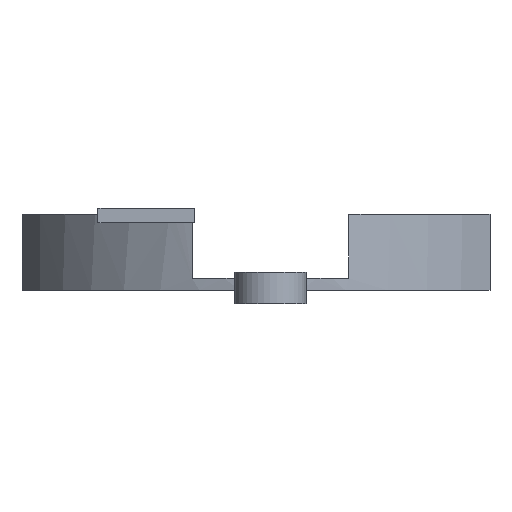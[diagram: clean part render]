
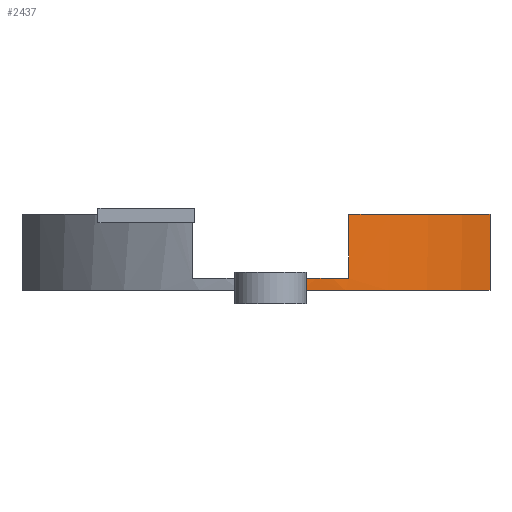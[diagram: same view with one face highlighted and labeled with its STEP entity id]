
A CAD part, left-side view. The second image highlights one B-rep face of the part: STEP entity #2437.
In plain terms, the highlighted cylindrical face has radius 22 mm (diameter 44 mm), a partial arc.
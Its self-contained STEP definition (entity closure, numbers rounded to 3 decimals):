
#131 = PLANE('',#132);
#132 = AXIS2_PLACEMENT_3D('',#133,#134,#135);
#133 = CARTESIAN_POINT('',(0.,43.5,3.9));
#134 = DIRECTION('',(0.,0.,1.));
#135 = DIRECTION('',(0.,1.,-0.));
#158 = CYLINDRICAL_SURFACE('',#159,3.);
#159 = AXIS2_PLACEMENT_3D('',#160,#161,#162);
#160 = CARTESIAN_POINT('',(-23.5,43.5,2.8));
#161 = DIRECTION('',(-0.,-0.,-1.));
#162 = DIRECTION('',(1.,0.,0.));
#185 = PLANE('',#186);
#186 = AXIS2_PLACEMENT_3D('',#187,#188,#189);
#187 = CARTESIAN_POINT('',(0.,43.5,4.9));
#188 = DIRECTION('',(0.,0.,1.));
#189 = DIRECTION('',(0.,1.,-0.));
#643 = VERTEX_POINT('',#644);
#644 = CARTESIAN_POINT('',(-21.856,40.99,4.9));
#670 = EDGE_CURVE('',#643,#671,#673,.T.);
#671 = VERTEX_POINT('',#672);
#672 = CARTESIAN_POINT('',(-21.018,37.,4.9));
#673 = SURFACE_CURVE('',#674,(#679,#686),.PCURVE_S1.);
#674 = CIRCLE('',#675,22.);
#675 = AXIS2_PLACEMENT_3D('',#676,#677,#678);
#676 = CARTESIAN_POINT('',(0.,43.5,4.9));
#677 = DIRECTION('',(0.,-0.,1.));
#678 = DIRECTION('',(0.,1.,0.));
#679 = PCURVE('',#185,#680);
#680 = DEFINITIONAL_REPRESENTATION('',(#681),#685);
#681 = CIRCLE('',#682,22.);
#682 = AXIS2_PLACEMENT_2D('',#683,#684);
#683 = CARTESIAN_POINT('',(0.,0.));
#684 = DIRECTION('',(1.,0.));
#685 = ( GEOMETRIC_REPRESENTATION_CONTEXT(2) 
PARAMETRIC_REPRESENTATION_CONTEXT() REPRESENTATION_CONTEXT('2D SPACE',''
  ) );
#686 = PCURVE('',#687,#692);
#687 = CYLINDRICAL_SURFACE('',#688,22.);
#688 = AXIS2_PLACEMENT_3D('',#689,#690,#691);
#689 = CARTESIAN_POINT('',(0.,43.5,4.7));
#690 = DIRECTION('',(0.,-0.,-1.));
#691 = DIRECTION('',(0.,1.,0.));
#692 = DEFINITIONAL_REPRESENTATION('',(#693),#696);
#693 = B_SPLINE_CURVE_WITH_KNOTS('',1,(#694,#695),.UNSPECIFIED.,.F.,.F.,
  (2,2),(1.271,1.871),.PIECEWISE_BEZIER_KNOTS.);
#694 = CARTESIAN_POINT('',(5.012,-0.2));
#695 = CARTESIAN_POINT('',(4.412,-0.2));
#696 = ( GEOMETRIC_REPRESENTATION_CONTEXT(2) 
PARAMETRIC_REPRESENTATION_CONTEXT() REPRESENTATION_CONTEXT('2D SPACE',''
  ) );
#714 = PLANE('',#715);
#715 = AXIS2_PLACEMENT_3D('',#716,#717,#718);
#716 = CARTESIAN_POINT('',(30.,37.,4.2));
#717 = DIRECTION('',(0.,1.,0.));
#718 = DIRECTION('',(0.,-0.,1.));
#775 = PLANE('',#776);
#776 = AXIS2_PLACEMENT_3D('',#777,#778,#779);
#777 = CARTESIAN_POINT('',(-32.,25.3,-4.));
#778 = DIRECTION('',(0.,1.,0.));
#779 = DIRECTION('',(0.,-0.,1.));
#1187 = EDGE_CURVE('',#643,#1188,#1190,.T.);
#1188 = VERTEX_POINT('',#1189);
#1189 = CARTESIAN_POINT('',(-21.856,40.99,3.9));
#1190 = SURFACE_CURVE('',#1191,(#1195,#1201),.PCURVE_S1.);
#1191 = LINE('',#1192,#1193);
#1192 = CARTESIAN_POINT('',(-21.856,40.99,4.7));
#1193 = VECTOR('',#1194,1.);
#1194 = DIRECTION('',(0.,-0.,-1.));
#1195 = PCURVE('',#158,#1196);
#1196 = DEFINITIONAL_REPRESENTATION('',(#1197),#1200);
#1197 = B_SPLINE_CURVE_WITH_KNOTS('',1,(#1198,#1199),.UNSPECIFIED.,.F.,
  .F.,(2,2),(-0.7,0.8),.PIECEWISE_BEZIER_KNOTS.);
#1198 = CARTESIAN_POINT('',(-5.292,-2.6));
#1199 = CARTESIAN_POINT('',(-5.292,-1.1));
#1200 = ( GEOMETRIC_REPRESENTATION_CONTEXT(2) 
PARAMETRIC_REPRESENTATION_CONTEXT() REPRESENTATION_CONTEXT('2D SPACE',''
  ) );
#1201 = PCURVE('',#687,#1202);
#1202 = DEFINITIONAL_REPRESENTATION('',(#1203),#1206);
#1203 = B_SPLINE_CURVE_WITH_KNOTS('',1,(#1204,#1205),.UNSPECIFIED.,.F.,
  .F.,(2,2),(-0.7,0.8),.PIECEWISE_BEZIER_KNOTS.);
#1204 = CARTESIAN_POINT('',(4.598,-0.7));
#1205 = CARTESIAN_POINT('',(4.598,0.8));
#1206 = ( GEOMETRIC_REPRESENTATION_CONTEXT(2) 
PARAMETRIC_REPRESENTATION_CONTEXT() REPRESENTATION_CONTEXT('2D SPACE',''
  ) );
#1363 = EDGE_CURVE('',#1188,#1364,#1366,.T.);
#1364 = VERTEX_POINT('',#1365);
#1365 = CARTESIAN_POINT('',(-12.36,25.3,3.9));
#1366 = SURFACE_CURVE('',#1367,(#1372,#1379),.PCURVE_S1.);
#1367 = CIRCLE('',#1368,22.);
#1368 = AXIS2_PLACEMENT_3D('',#1369,#1370,#1371);
#1369 = CARTESIAN_POINT('',(0.,43.5,3.9));
#1370 = DIRECTION('',(-0.,0.,1.));
#1371 = DIRECTION('',(0.562,-0.827,0.));
#1372 = PCURVE('',#131,#1373);
#1373 = DEFINITIONAL_REPRESENTATION('',(#1374),#1378);
#1374 = CIRCLE('',#1375,22.);
#1375 = AXIS2_PLACEMENT_2D('',#1376,#1377);
#1376 = CARTESIAN_POINT('',(0.,0.));
#1377 = DIRECTION('',(-0.827,-0.562));
#1378 = ( GEOMETRIC_REPRESENTATION_CONTEXT(2) 
PARAMETRIC_REPRESENTATION_CONTEXT() REPRESENTATION_CONTEXT('2D SPACE',''
  ) );
#1379 = PCURVE('',#687,#1380);
#1380 = DEFINITIONAL_REPRESENTATION('',(#1381),#1385);
#1381 = LINE('',#1382,#1383);
#1382 = CARTESIAN_POINT('',(8.828,0.8));
#1383 = VECTOR('',#1384,1.);
#1384 = DIRECTION('',(-1.,0.));
#1385 = ( GEOMETRIC_REPRESENTATION_CONTEXT(2) 
PARAMETRIC_REPRESENTATION_CONTEXT() REPRESENTATION_CONTEXT('2D SPACE',''
  ) );
#2263 = EDGE_CURVE('',#2264,#1364,#2266,.T.);
#2264 = VERTEX_POINT('',#2265);
#2265 = CARTESIAN_POINT('',(-12.36,25.3,10.2));
#2266 = SURFACE_CURVE('',#2267,(#2271,#2278),.PCURVE_S1.);
#2267 = LINE('',#2268,#2269);
#2268 = CARTESIAN_POINT('',(-12.36,25.3,4.7));
#2269 = VECTOR('',#2270,1.);
#2270 = DIRECTION('',(0.,-0.,-1.));
#2271 = PCURVE('',#775,#2272);
#2272 = DEFINITIONAL_REPRESENTATION('',(#2273),#2277);
#2273 = LINE('',#2274,#2275);
#2274 = CARTESIAN_POINT('',(8.7,19.64));
#2275 = VECTOR('',#2276,1.);
#2276 = DIRECTION('',(-1.,0.));
#2277 = ( GEOMETRIC_REPRESENTATION_CONTEXT(2) 
PARAMETRIC_REPRESENTATION_CONTEXT() REPRESENTATION_CONTEXT('2D SPACE',''
  ) );
#2278 = PCURVE('',#687,#2279);
#2279 = DEFINITIONAL_REPRESENTATION('',(#2280),#2283);
#2280 = B_SPLINE_CURVE_WITH_KNOTS('',1,(#2281,#2282),.UNSPECIFIED.,.F.,
  .F.,(2,2),(-5.5,0.8),.PIECEWISE_BEZIER_KNOTS.);
#2281 = CARTESIAN_POINT('',(3.738,-5.5));
#2282 = CARTESIAN_POINT('',(3.738,0.8));
#2283 = ( GEOMETRIC_REPRESENTATION_CONTEXT(2) 
PARAMETRIC_REPRESENTATION_CONTEXT() REPRESENTATION_CONTEXT('2D SPACE',''
  ) );
#2301 = PLANE('',#2302);
#2302 = AXIS2_PLACEMENT_3D('',#2303,#2304,#2305);
#2303 = CARTESIAN_POINT('',(0.,43.5,10.2));
#2304 = DIRECTION('',(0.,0.,1.));
#2305 = DIRECTION('',(0.,1.,-0.));
#2394 = VERTEX_POINT('',#2395);
#2395 = CARTESIAN_POINT('',(-21.018,37.,10.2));
#2418 = EDGE_CURVE('',#2394,#671,#2419,.T.);
#2419 = SURFACE_CURVE('',#2420,(#2424,#2431),.PCURVE_S1.);
#2420 = LINE('',#2421,#2422);
#2421 = CARTESIAN_POINT('',(-21.018,37.,4.7));
#2422 = VECTOR('',#2423,1.);
#2423 = DIRECTION('',(0.,-0.,-1.));
#2424 = PCURVE('',#714,#2425);
#2425 = DEFINITIONAL_REPRESENTATION('',(#2426),#2430);
#2426 = LINE('',#2427,#2428);
#2427 = CARTESIAN_POINT('',(0.5,-51.018));
#2428 = VECTOR('',#2429,1.);
#2429 = DIRECTION('',(-1.,0.));
#2430 = ( GEOMETRIC_REPRESENTATION_CONTEXT(2) 
PARAMETRIC_REPRESENTATION_CONTEXT() REPRESENTATION_CONTEXT('2D SPACE',''
  ) );
#2431 = PCURVE('',#687,#2432);
#2432 = DEFINITIONAL_REPRESENTATION('',(#2433),#2436);
#2433 = B_SPLINE_CURVE_WITH_KNOTS('',1,(#2434,#2435),.UNSPECIFIED.,.F.,
  .F.,(2,2),(-5.5,-0.2),.PIECEWISE_BEZIER_KNOTS.);
#2434 = CARTESIAN_POINT('',(4.412,-5.5));
#2435 = CARTESIAN_POINT('',(4.412,-0.2));
#2436 = ( GEOMETRIC_REPRESENTATION_CONTEXT(2) 
PARAMETRIC_REPRESENTATION_CONTEXT() REPRESENTATION_CONTEXT('2D SPACE',''
  ) );
#2437 = ADVANCED_FACE('',(#2438),#687,.T.);
#2438 = FACE_BOUND('',#2439,.T.);
#2439 = EDGE_LOOP('',(#2440,#2441,#2442,#2443,#2464,#2465));
#2440 = ORIENTED_EDGE('',*,*,#1187,.T.);
#2441 = ORIENTED_EDGE('',*,*,#1363,.T.);
#2442 = ORIENTED_EDGE('',*,*,#2263,.F.);
#2443 = ORIENTED_EDGE('',*,*,#2444,.F.);
#2444 = EDGE_CURVE('',#2394,#2264,#2445,.T.);
#2445 = SURFACE_CURVE('',#2446,(#2451,#2457),.PCURVE_S1.);
#2446 = CIRCLE('',#2447,22.);
#2447 = AXIS2_PLACEMENT_3D('',#2448,#2449,#2450);
#2448 = CARTESIAN_POINT('',(0.,43.5,10.2));
#2449 = DIRECTION('',(0.,-0.,1.));
#2450 = DIRECTION('',(0.,1.,0.));
#2451 = PCURVE('',#687,#2452);
#2452 = DEFINITIONAL_REPRESENTATION('',(#2453),#2456);
#2453 = B_SPLINE_CURVE_WITH_KNOTS('',1,(#2454,#2455),.UNSPECIFIED.,.F.,
  .F.,(2,2),(1.871,2.545),.PIECEWISE_BEZIER_KNOTS.);
#2454 = CARTESIAN_POINT('',(4.412,-5.5));
#2455 = CARTESIAN_POINT('',(3.738,-5.5));
#2456 = ( GEOMETRIC_REPRESENTATION_CONTEXT(2) 
PARAMETRIC_REPRESENTATION_CONTEXT() REPRESENTATION_CONTEXT('2D SPACE',''
  ) );
#2457 = PCURVE('',#2301,#2458);
#2458 = DEFINITIONAL_REPRESENTATION('',(#2459),#2463);
#2459 = CIRCLE('',#2460,22.);
#2460 = AXIS2_PLACEMENT_2D('',#2461,#2462);
#2461 = CARTESIAN_POINT('',(0.,0.));
#2462 = DIRECTION('',(1.,0.));
#2463 = ( GEOMETRIC_REPRESENTATION_CONTEXT(2) 
PARAMETRIC_REPRESENTATION_CONTEXT() REPRESENTATION_CONTEXT('2D SPACE',''
  ) );
#2464 = ORIENTED_EDGE('',*,*,#2418,.T.);
#2465 = ORIENTED_EDGE('',*,*,#670,.F.);
